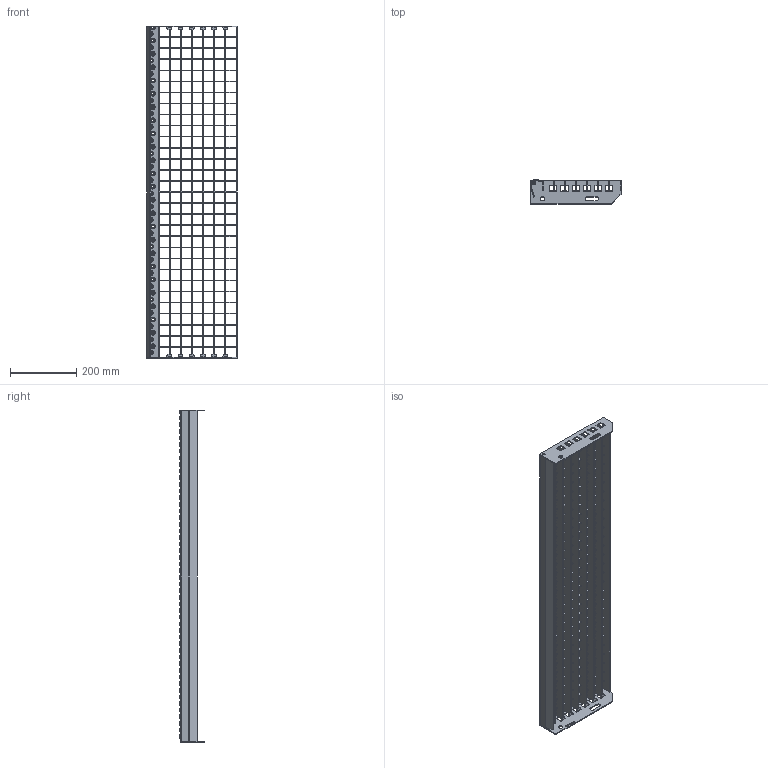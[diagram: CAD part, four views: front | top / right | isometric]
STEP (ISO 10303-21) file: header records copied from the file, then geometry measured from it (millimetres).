
FILE_DESCRIPTION(/* description */ ('','CAx-IF Rec.Pracs.---Representation and Presentation of Product Manufacturing Information (PMI)---3.8---2014-02-18'),/* implementation_level */ '2;1');
FILE_NAME(/* name */ 'C:\Users\phaverkotte\Desktop\Lager STEP\P-Stufen\PX3 330-33-3\PX3 330-33-3 1000mm x 270mm.stp',/* time_stamp */ '2018-03-24T10:15:09+01:00',/* author */ ('phaverkotte'),/* organization */ (''),/* preprocessor_version */ 'ST-DEVELOPER v16.13',/* originating_system */ 'Autodesk Inventor 2018',/* authorisation */ '');
FILE_SCHEMA (('AP242_MANAGED_MODEL_BASED_3D_ENGINEERING_MIM_LF { 1 0 10303 442 1 1 4 }'));
Length unit declared in the file: millimetre
Products named in the file (8): Schodišťový stupeň přím
ý lisovaný; Seitenplatte ausgeklinkt links; Seitenplatte 240 ausgeklinkt extern rechts; Schod nášlap; P Rošt schodu; Querstab; P Nosný pás; Hinteres Flach
Assembly tree (41 placements, depth 3):
  Schodišťový stupeň přím
ý lisovaný
    Seitenplatte ausgeklinkt links
    Seitenplatte 240 ausgeklinkt extern rechts
    Schod nášlap
    P Rošt schodu
      Querstab  x29
      P Nosný pás  x7
      Hinteres Flach
Bounding box: 271.31 x 72.75 x 1000 mm (x, y, z)
Volume: 1058378.5 mm3; surface area: 899973.1 mm2
Topology: 40 solids, 40 shells, 3642 faces, 10515 edges, 6970 vertices
Faces by surface type: plane 2315, cylinder 1103, cone 150, torus 50, bspline 24
Full cylindrical faces by diameter (mm): 8 x2, 13 x2
Entity records: 33717 total; most frequent: CARTESIAN_POINT 9258, DIRECTION 4954, ORIENTED_EDGE 4736, EDGE_CURVE 2368, AXIS2_PLACEMENT_3D 1657, LINE 1640, VECTOR 1640, VERTEX_POINT 1639
